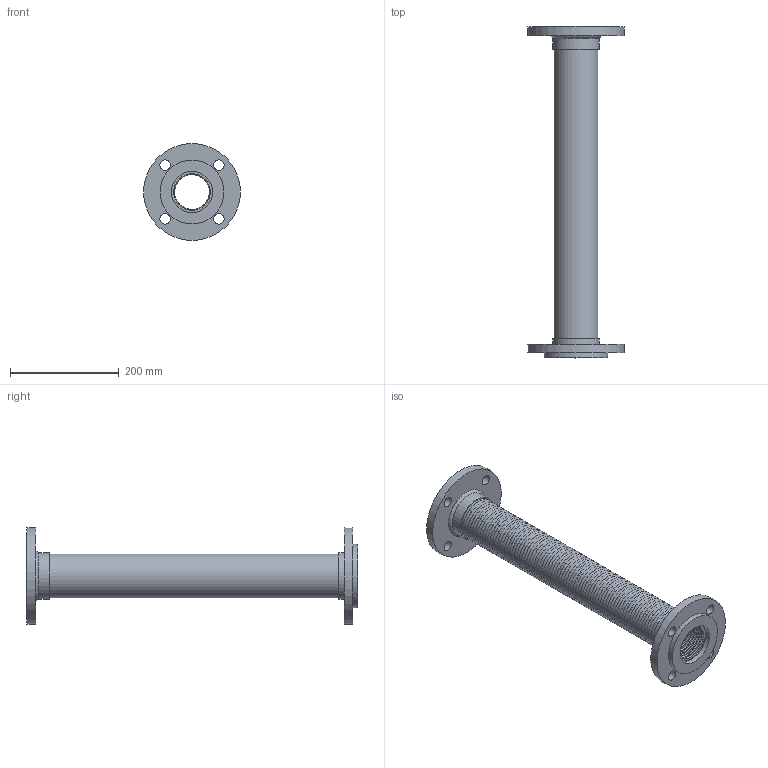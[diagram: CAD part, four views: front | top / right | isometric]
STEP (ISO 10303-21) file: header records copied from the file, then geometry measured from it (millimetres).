
FILE_DESCRIPTION((''),'2;1');
FILE_NAME('C:\REVIT SHARED FILES\STP\FFL2_5x24ASA150.stp','2013-06-14T18:48:01',('rramoutar'),(''),'Autodesk Inventor 2012','Autodesk Inventor 2012','');
FILE_SCHEMA(('AUTOMOTIVE_DESIGN { 1 0 10303 214 1 1 1 1 }'));
Length unit declared in the file: inch
Products named in the file (8): FFL 2.5 x 24 PER A-30307-3; FFL 2.5 x 24 PER A-30307-3_Welds; A-30304-2 FFL WELDED WASHER 2.5 inch 150 #; A-30303-1 FLOATING FLANGE 2.5 inch 150 #; A-30302-2 FIXED FLANGE 2.5 inch 150 #; A-29781-7 2.5 inch braid collar; FFL 2.5x24 BRAID; FFL 2.5x24 STAINLESS HOSE
Assembly tree (8 placements, depth 2):
  FFL 2.5 x 24 PER A-30307-3
    FFL 2.5 x 24 PER A-30307-3_Welds
    A-30304-2 FFL WELDED WASHER 2.5 inch 150 #
    A-30303-1 FLOATING FLANGE 2.5 inch 150 #
    A-30302-2 FIXED FLANGE 2.5 inch 150 #
    A-29781-7 2.5 inch braid collar  x2
    FFL 2.5x24 BRAID
    FFL 2.5x24 STAINLESS HOSE
Bounding box: 177.12 x 609.6 x 177.12 mm (x, y, z)
Volume: 881458.3 mm3; surface area: 1246529.6 mm2
Topology: 8 solids, 8 shells, 778 faces, 1191 edges, 797 vertices
Faces by surface type: plane 384, torus 370, cylinder 22, bspline 1, cone 1
Full cylindrical faces by diameter (mm): 19.05 x8, 76.2 x2, 79.756 x1, 80.569 x3, 85.331 x3, 87.313 x1, 104.775 x1, 117.475 x1, 177.8 x2
Entity records: 16111 total; most frequent: DIRECTION 3138, CARTESIAN_POINT 2569, ORIENTED_EDGE 1570, AXIS2_PLACEMENT_3D 1569, EDGE_LOOP 1563, FACE_BOUND 789, EDGE_CURVE 785, VERTEX_POINT 784
